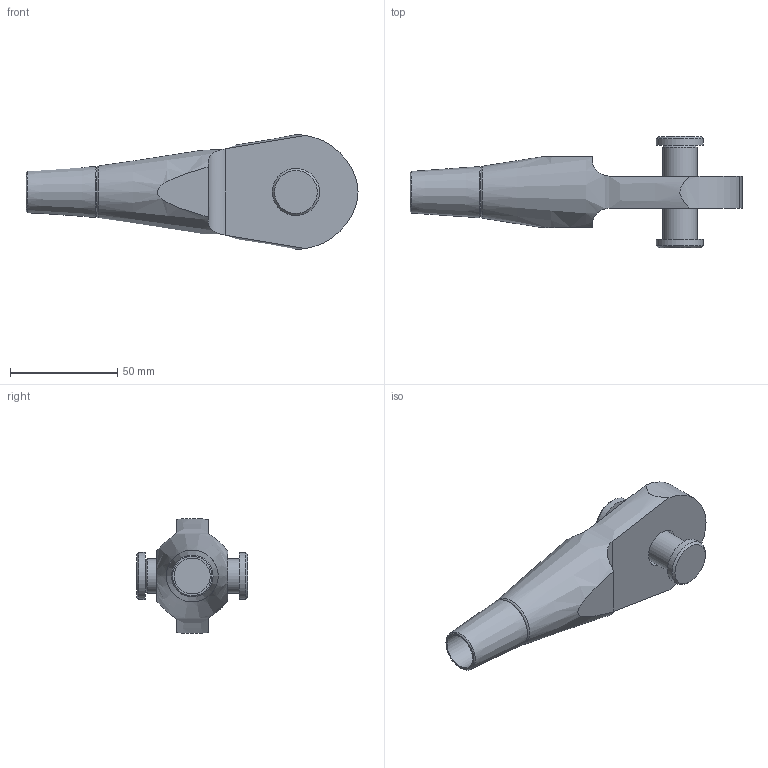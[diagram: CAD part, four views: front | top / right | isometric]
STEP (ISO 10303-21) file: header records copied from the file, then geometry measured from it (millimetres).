
FILE_DESCRIPTION(/* description */ (''),/* implementation_level */ '2;1');
FILE_NAME(/* name */ 'G:\Engineering\700 CAD\Internet-PX-1-step-igs-dxf\520-OES-Arbeitsdateien\520-016-OES.stp',/* time_stamp */ '2020-06-26T10:10:17+02:00',/* author */ ('schwarz'),/* organization */ (''),/* preprocessor_version */ 'ST-DEVELOPER v16.1',/* originating_system */ 'Autodesk Inventor 2016',/* authorisation */ '');
FILE_SCHEMA (('AUTOMOTIVE_DESIGN { 1 0 10303 214 3 1 1 }'));
Length unit declared in the file: centimetre
Products named in the file (1): 520-016-OES-KMU-Kunde
Bounding box: 155 x 52.21 x 53.46 mm (x, y, z)
Volume: 104156.6 mm3; surface area: 22845.7 mm2
Topology: 2 solids, 3 shells, 49 faces, 105 edges, 68 vertices
Faces by surface type: plane 23, cylinder 14, cone 10, torus 2
Full cylindrical faces by diameter (mm): 4.917 x1, 6 x1, 6.8 x1, 12 x1, 16 x1, 16.8 x1, 18 x1, 22 x2
Entity records: 1341 total; most frequent: CARTESIAN_POINT 292, DIRECTION 204, ORIENTED_EDGE 158, AXIS2_PLACEMENT_3D 89, EDGE_CURVE 79, EDGE_LOOP 78, VERTEX_POINT 63, STYLED_ITEM 51
